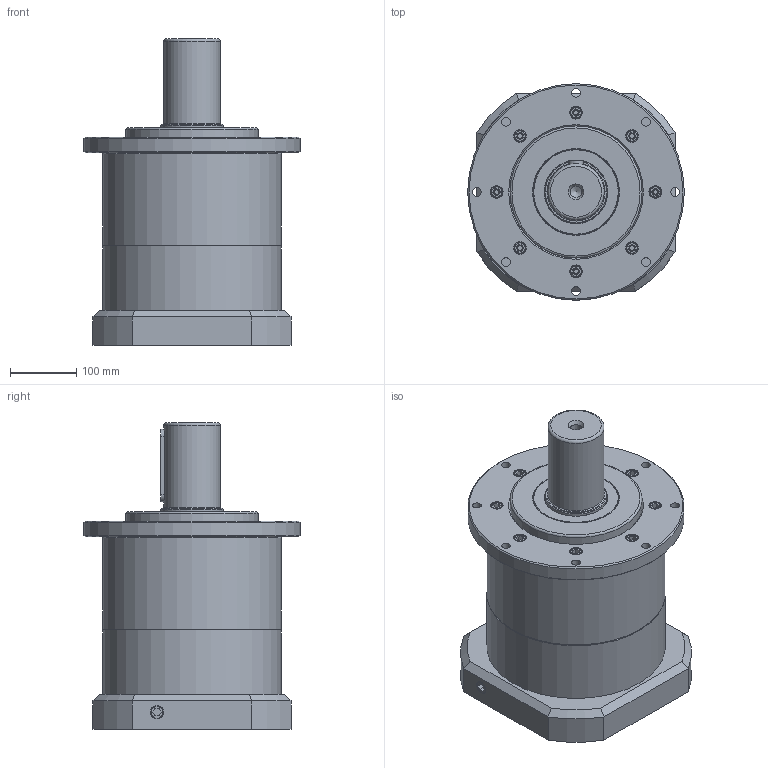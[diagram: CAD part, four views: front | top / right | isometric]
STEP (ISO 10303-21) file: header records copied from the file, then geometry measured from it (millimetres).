
FILE_DESCRIPTION((''),'2;1');
FILE_NAME('D:\WORK\감속기 카다로그 도면\ATG Reducer(홈페이지)\KSB\KSB-270-1.stp','2015-03-23T15:56:42',('young'),(''),'Autodesk Inventor 2012','Autodesk Inventor 2012','');
FILE_SCHEMA(('AUTOMOTIVE_DESIGN { 1 0 10303 214 1 1 1 1 }'));
Length unit declared in the file: millimetre
Products named in the file (1): KSB-270-1
Bounding box: 328 x 328 x 464.5 mm (x, y, z)
Volume: 9416858 mm3; surface area: 1267333.6 mm2
Topology: 29 solids, 29 shells, 741 faces, 1620 edges, 1014 vertices
Faces by surface type: plane 389, cylinder 181, cone 141, torus 30
Full cylindrical faces by diameter (mm): 8.5 x16, 10 x8, 10.2 x9, 11 x16, 12 x9, 13 x17, 14 x4, 16 x8, 17 x8, 17.5 x1, 17.856 x2, 18 x9, 19 x10, 66 x1, 80.6 x1, 84.7 x1, 85 x2, 93 x1, 94.8 x1, 95 x1, 103 x1, 111 x1, 115 x2, 126 x1, 130 x2, 180 x1, 200 x2, 225 x2, 235 x2, 235.5 x1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
Entity records: 18962 total; most frequent: CARTESIAN_POINT 3526, DIRECTION 3308, ORIENTED_EDGE 2594, AXIS2_PLACEMENT_3D 1355, EDGE_CURVE 1297, EDGE_LOOP 1172, VERTEX_POINT 959, FACE_OUTER_BOUND 733
